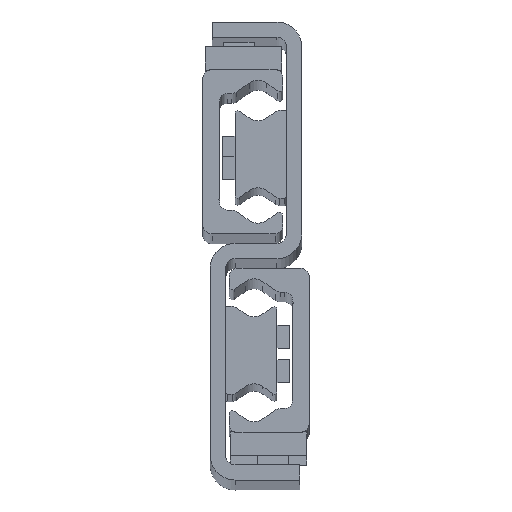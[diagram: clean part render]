
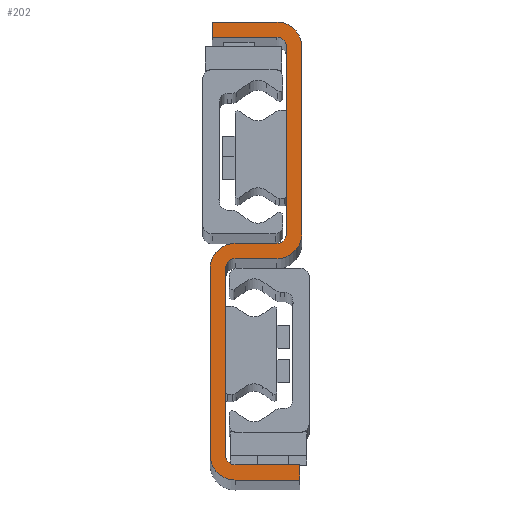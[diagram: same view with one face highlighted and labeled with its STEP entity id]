
A CAD part, top view. The second image highlights one B-rep face of the part: STEP entity #202.
In plain terms, the highlighted planar face has unit normal (0, 0, 1).
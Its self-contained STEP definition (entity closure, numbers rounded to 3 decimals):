
#202=ADVANCED_FACE('',(#713),#714,.T.);
#713=FACE_OUTER_BOUND('',#1543,.T.);
#714=PLANE('',#1544);
#1543=EDGE_LOOP('',(#3069,#3070,#3071,#3072,#3073,#3074,#3075,#3076,#3077,#3078,#3079,#3080,#3081,#3082,#3083,#3084,#3085,#3086,#3087,#3088));
#1544=AXIS2_PLACEMENT_3D('',#3089,#3090,#3091);
#3069=ORIENTED_EDGE('',*,*,#5381,.F.);
#3070=ORIENTED_EDGE('',*,*,#5439,.F.);
#3071=ORIENTED_EDGE('',*,*,#5436,.F.);
#3072=ORIENTED_EDGE('',*,*,#5433,.F.);
#3073=ORIENTED_EDGE('',*,*,#5430,.F.);
#3074=ORIENTED_EDGE('',*,*,#5427,.F.);
#3075=ORIENTED_EDGE('',*,*,#5424,.F.);
#3076=ORIENTED_EDGE('',*,*,#5421,.F.);
#3077=ORIENTED_EDGE('',*,*,#5418,.F.);
#3078=ORIENTED_EDGE('',*,*,#5415,.F.);
#3079=ORIENTED_EDGE('',*,*,#5412,.F.);
#3080=ORIENTED_EDGE('',*,*,#5409,.F.);
#3081=ORIENTED_EDGE('',*,*,#5406,.F.);
#3082=ORIENTED_EDGE('',*,*,#5403,.F.);
#3083=ORIENTED_EDGE('',*,*,#5400,.F.);
#3084=ORIENTED_EDGE('',*,*,#5397,.F.);
#3085=ORIENTED_EDGE('',*,*,#5394,.F.);
#3086=ORIENTED_EDGE('',*,*,#5391,.F.);
#3087=ORIENTED_EDGE('',*,*,#5388,.F.);
#3088=ORIENTED_EDGE('',*,*,#5385,.F.);
#3089=CARTESIAN_POINT('',(-14.,26.,1490.0));
#3090=DIRECTION('',(0.0,0.0,1.0));
#3091=DIRECTION('',(1.0,0.0,0.0));
#5381=EDGE_CURVE('',#6519,#6520,#6521,.T.);
#5385=EDGE_CURVE('',#6520,#6527,#6528,.T.);
#5388=EDGE_CURVE('',#6527,#6532,#6533,.T.);
#5391=EDGE_CURVE('',#6532,#6537,#6538,.T.);
#5394=EDGE_CURVE('',#6537,#6542,#6543,.T.);
#5397=EDGE_CURVE('',#6542,#6547,#6548,.T.);
#5400=EDGE_CURVE('',#6547,#6552,#6553,.T.);
#5403=EDGE_CURVE('',#6552,#6557,#6558,.T.);
#5406=EDGE_CURVE('',#6557,#6562,#6563,.T.);
#5409=EDGE_CURVE('',#6562,#6567,#6568,.T.);
#5412=EDGE_CURVE('',#6567,#6572,#6573,.T.);
#5415=EDGE_CURVE('',#6572,#6577,#6578,.T.);
#5418=EDGE_CURVE('',#6577,#6582,#6583,.T.);
#5421=EDGE_CURVE('',#6582,#6587,#6588,.T.);
#5424=EDGE_CURVE('',#6587,#6592,#6593,.T.);
#5427=EDGE_CURVE('',#6592,#6597,#6598,.T.);
#5430=EDGE_CURVE('',#6597,#6602,#6603,.T.);
#5433=EDGE_CURVE('',#6602,#6607,#6608,.T.);
#5436=EDGE_CURVE('',#6607,#6612,#6613,.T.);
#5439=EDGE_CURVE('',#6612,#6519,#6617,.T.);
#6519=VERTEX_POINT('',#8289);
#6520=VERTEX_POINT('',#8290);
#6521=LINE('',#8291,#8292);
#6527=VERTEX_POINT('',#8301);
#6528=CIRCLE('',#8302,2.5);
#6532=VERTEX_POINT('',#8307);
#6533=LINE('',#8308,#8309);
#6537=VERTEX_POINT('',#8315);
#6538=CIRCLE('',#8316,2.5);
#6542=VERTEX_POINT('',#8321);
#6543=LINE('',#8322,#8323);
#6547=VERTEX_POINT('',#8329);
#6548=LINE('',#8330,#8331);
#6552=VERTEX_POINT('',#8337);
#6553=LINE('',#8338,#8339);
#6557=VERTEX_POINT('',#8345);
#6558=CIRCLE('',#8346,6.5);
#6562=VERTEX_POINT('',#8351);
#6563=LINE('',#8352,#8353);
#6567=VERTEX_POINT('',#8359);
#6568=CIRCLE('',#8360,6.5);
#6572=VERTEX_POINT('',#8365);
#6573=LINE('',#8366,#8367);
#6577=VERTEX_POINT('',#8373);
#6578=CIRCLE('',#8374,2.5);
#6582=VERTEX_POINT('',#8379);
#6583=LINE('',#8380,#8381);
#6587=VERTEX_POINT('',#8387);
#6588=CIRCLE('',#8388,2.5);
#6592=VERTEX_POINT('',#8393);
#6593=LINE('',#8394,#8395);
#6597=VERTEX_POINT('',#8401);
#6598=LINE('',#8402,#8403);
#6602=VERTEX_POINT('',#8409);
#6603=LINE('',#8410,#8411);
#6607=VERTEX_POINT('',#8417);
#6608=CIRCLE('',#8418,6.5);
#6612=VERTEX_POINT('',#8423);
#6613=LINE('',#8424,#8425);
#6617=CIRCLE('',#8431,6.5);
#8289=CARTESIAN_POINT('',(-8.5,24.,1490.0));
#8290=CARTESIAN_POINT('',(-19.5,24.,1490.0));
#8291=CARTESIAN_POINT('',(-8.5,24.,1490.0));
#8292=VECTOR('',#10217,1.0);
#8301=CARTESIAN_POINT('',(-22.,21.5,1490.0));
#8302=AXIS2_PLACEMENT_3D('',#10221,#10222,#10223);
#8307=CARTESIAN_POINT('',(-22.,-27.5,1490.0));
#8308=CARTESIAN_POINT('',(-22.,-27.5,1490.0));
#8309=VECTOR('',#10228,1.0);
#8315=CARTESIAN_POINT('',(-19.5,-30.,1490.0));
#8316=AXIS2_PLACEMENT_3D('',#10231,#10232,#10233);
#8321=CARTESIAN_POINT('',(-2.5,-30.,1490.0));
#8322=CARTESIAN_POINT('',(-19.5,-30.,1490.0));
#8323=VECTOR('',#10238,1.0);
#8329=CARTESIAN_POINT('',(-2.5,-34.,1490.0));
#8330=CARTESIAN_POINT('',(-2.5,-34.,1490.0));
#8331=VECTOR('',#10241,1.0);
#8337=CARTESIAN_POINT('',(-19.5,-34.,1490.0));
#8338=CARTESIAN_POINT('',(-19.5,-34.,1490.0));
#8339=VECTOR('',#10244,1.0);
#8345=CARTESIAN_POINT('',(-26.,-27.5,1490.0));
#8346=AXIS2_PLACEMENT_3D('',#10247,#10248,#10249);
#8351=CARTESIAN_POINT('',(-26.,21.5,1490.0));
#8352=CARTESIAN_POINT('',(-26.,21.5,1490.0));
#8353=VECTOR('',#10254,1.0);
#8359=CARTESIAN_POINT('',(-19.5,28.,1490.0));
#8360=AXIS2_PLACEMENT_3D('',#10257,#10258,#10259);
#8365=CARTESIAN_POINT('',(-8.5,28.,1490.0));
#8366=CARTESIAN_POINT('',(-8.5,28.,1490.0));
#8367=VECTOR('',#10264,1.0);
#8373=CARTESIAN_POINT('',(-6.,30.5,1490.0));
#8374=AXIS2_PLACEMENT_3D('',#10267,#10268,#10269);
#8379=CARTESIAN_POINT('',(-6.,79.5,1490.0));
#8380=CARTESIAN_POINT('',(-6.,79.5,1490.0));
#8381=VECTOR('',#10274,1.0);
#8387=CARTESIAN_POINT('',(-8.5,82.,1490.0));
#8388=AXIS2_PLACEMENT_3D('',#10277,#10278,#10279);
#8393=CARTESIAN_POINT('',(-25.5,82.,1490.0));
#8394=CARTESIAN_POINT('',(-25.5,82.,1490.0));
#8395=VECTOR('',#10284,1.0);
#8401=CARTESIAN_POINT('',(-25.5,86.,1490.0));
#8402=CARTESIAN_POINT('',(-25.5,86.,1490.0));
#8403=VECTOR('',#10287,1.0);
#8409=CARTESIAN_POINT('',(-8.5,86.,1490.0));
#8410=CARTESIAN_POINT('',(-25.5,86.,1490.0));
#8411=VECTOR('',#10290,1.0);
#8417=CARTESIAN_POINT('',(-2.,79.5,1490.0));
#8418=AXIS2_PLACEMENT_3D('',#10293,#10294,#10295);
#8423=CARTESIAN_POINT('',(-2.,30.5,1490.0));
#8424=CARTESIAN_POINT('',(-2.,79.5,1490.0));
#8425=VECTOR('',#10300,1.0);
#8431=AXIS2_PLACEMENT_3D('',#10303,#10304,#10305);
#10217=DIRECTION('',(-1.0,0.,0.0));
#10221=CARTESIAN_POINT('',(-19.5,21.5,1490.0));
#10222=DIRECTION('',(0.0,0.0,1.0));
#10223=DIRECTION('',(1.0,0.0,0.0));
#10228=DIRECTION('',(-0.0,-1.0,-0.0));
#10231=CARTESIAN_POINT('',(-19.5,-27.5,1490.0));
#10232=DIRECTION('',(0.0,0.0,1.0));
#10233=DIRECTION('',(1.0,0.0,0.0));
#10238=DIRECTION('',(1.,0.,0.0));
#10241=DIRECTION('',(-0.0,-1.0,-0.0));
#10244=DIRECTION('',(-1.,0.,-0.0));
#10247=CARTESIAN_POINT('',(-19.5,-27.5,1490.0));
#10248=DIRECTION('',(0.0,0.0,-1.0));
#10249=DIRECTION('',(1.0,0.0,0.0));
#10254=DIRECTION('',(0.0,1.0,0.0));
#10257=CARTESIAN_POINT('',(-19.5,21.5,1490.0));
#10258=DIRECTION('',(0.0,0.0,-1.0));
#10259=DIRECTION('',(1.0,0.0,0.0));
#10264=DIRECTION('',(1.0,0.,0.0));
#10267=CARTESIAN_POINT('',(-8.5,30.5,1490.0));
#10268=DIRECTION('',(0.0,0.0,1.0));
#10269=DIRECTION('',(1.0,0.0,0.0));
#10274=DIRECTION('',(0.0,1.0,0.0));
#10277=CARTESIAN_POINT('',(-8.5,79.5,1490.0));
#10278=DIRECTION('',(0.0,0.0,1.0));
#10279=DIRECTION('',(1.0,0.0,0.0));
#10284=DIRECTION('',(-1.,0.,0.0));
#10287=DIRECTION('',(0.0,1.0,0.0));
#10290=DIRECTION('',(1.,0.,0.0));
#10293=CARTESIAN_POINT('',(-8.5,79.5,1490.0));
#10294=DIRECTION('',(0.0,0.0,-1.0));
#10295=DIRECTION('',(1.0,0.0,0.0));
#10300=DIRECTION('',(0.,-1.0,0.0));
#10303=CARTESIAN_POINT('',(-8.5,30.5,1490.0));
#10304=DIRECTION('',(0.0,0.0,-1.0));
#10305=DIRECTION('',(1.0,0.0,0.0));
